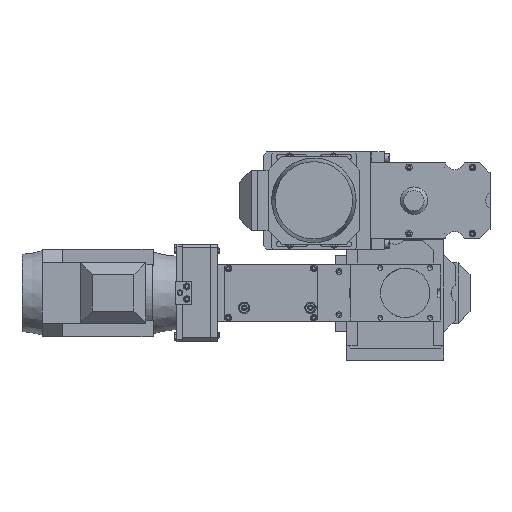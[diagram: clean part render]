
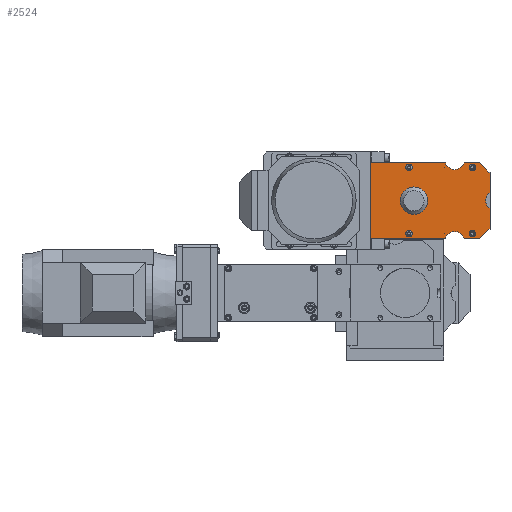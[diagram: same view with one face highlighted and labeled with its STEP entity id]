
A CAD part, top view. The second image highlights one B-rep face of the part: STEP entity #2524.
In plain terms, the highlighted planar face has unit normal (0, 0, 1).
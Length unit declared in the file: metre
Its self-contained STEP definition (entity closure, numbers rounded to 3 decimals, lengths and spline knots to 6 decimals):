
#2524 = ADVANCED_FACE( '', ( #3666, #3667, #3668, #3669, #3670 ), #3671, .T. );
#3666 = FACE_OUTER_BOUND( '', #5890, .T. );
#3667 = FACE_BOUND( '', #5891, .T. );
#3668 = FACE_BOUND( '', #5892, .T. );
#3669 = FACE_BOUND( '', #5893, .T. );
#3670 = FACE_BOUND( '', #5894, .T. );
#3671 = PLANE( '', #5895 );
#5890 = EDGE_LOOP( '', ( #8665, #8666, #8667, #8668, #8669, #8670, #8671, #8672, #8673, #8674, #8675, #8676 ) );
#5891 = EDGE_LOOP( '', ( #8677 ) );
#5892 = EDGE_LOOP( '', ( #8678 ) );
#5893 = EDGE_LOOP( '', ( #8679 ) );
#5894 = EDGE_LOOP( '', ( #8680 ) );
#5895 = AXIS2_PLACEMENT_3D( '', #8681, #8682, #8683 );
#8665 = ORIENTED_EDGE( '', *, *, #12293, .F. );
#8666 = ORIENTED_EDGE( '', *, *, #12312, .F. );
#8667 = ORIENTED_EDGE( '', *, *, #12313, .T. );
#8668 = ORIENTED_EDGE( '', *, *, #12301, .F. );
#8669 = ORIENTED_EDGE( '', *, *, #12311, .F. );
#8670 = ORIENTED_EDGE( '', *, *, #12314, .F. );
#8671 = ORIENTED_EDGE( '', *, *, #12315, .T. );
#8672 = ORIENTED_EDGE( '', *, *, #12316, .F. );
#8673 = ORIENTED_EDGE( '', *, *, #12317, .F. );
#8674 = ORIENTED_EDGE( '', *, *, #12318, .F. );
#8675 = ORIENTED_EDGE( '', *, *, #12319, .T. );
#8676 = ORIENTED_EDGE( '', *, *, #12320, .F. );
#8677 = ORIENTED_EDGE( '', *, *, #12321, .T. );
#8678 = ORIENTED_EDGE( '', *, *, #12322, .T. );
#8679 = ORIENTED_EDGE( '', *, *, #12323, .T. );
#8680 = ORIENTED_EDGE( '', *, *, #12324, .T. );
#8681 = CARTESIAN_POINT( '', ( 0., 0., 0.01 ) );
#8682 = DIRECTION( '', ( 0., 0., 1. ) );
#8683 = DIRECTION( '', ( 1., 0., 0. ) );
#12293 = EDGE_CURVE( '', #13971, #13972, #13973, .T. );
#12301 = EDGE_CURVE( '', #13986, #13988, #13989, .T. );
#12311 = EDGE_CURVE( '', #14003, #13986, #14005, .T. );
#12312 = EDGE_CURVE( '', #14006, #13971, #14007, .T. );
#12313 = EDGE_CURVE( '', #14006, #13988, #14008, .T. );
#12314 = EDGE_CURVE( '', #14009, #14003, #14010, .T. );
#12315 = EDGE_CURVE( '', #14009, #14011, #14012, .T. );
#12316 = EDGE_CURVE( '', #14013, #14011, #14014, .T. );
#12317 = EDGE_CURVE( '', #14015, #14013, #14016, .T. );
#12318 = EDGE_CURVE( '', #14017, #14015, #14018, .T. );
#12319 = EDGE_CURVE( '', #14017, #14019, #14020, .T. );
#12320 = EDGE_CURVE( '', #13972, #14019, #14021, .T. );
#12321 = EDGE_CURVE( '', #14022, #14022, #14023, .T. );
#12322 = EDGE_CURVE( '', #14024, #14024, #14025, .T. );
#12323 = EDGE_CURVE( '', #14026, #14026, #14027, .T. );
#12324 = EDGE_CURVE( '', #14028, #14028, #14029, .T. );
#13971 = VERTEX_POINT( '', #17227 );
#13972 = VERTEX_POINT( '', #17228 );
#13973 = LINE( '', #17229, #17230 );
#13986 = VERTEX_POINT( '', #17247 );
#13988 = VERTEX_POINT( '', #17250 );
#13989 = LINE( '', #17251, #17252 );
#14003 = VERTEX_POINT( '', #17274 );
#14005 = LINE( '', #17277, #17278 );
#14006 = VERTEX_POINT( '', #17279 );
#14007 = LINE( '', #17280, #17281 );
#14008 = CIRCLE( '', #17282, 0.014 );
#14009 = VERTEX_POINT( '', #17283 );
#14010 = LINE( '', #17284, #17285 );
#14011 = VERTEX_POINT( '', #17286 );
#14012 = CIRCLE( '', #17287, 0.014 );
#14013 = VERTEX_POINT( '', #17288 );
#14014 = LINE( '', #17289, #17290 );
#14015 = VERTEX_POINT( '', #17291 );
#14016 = LINE( '', #17292, #17293 );
#14017 = VERTEX_POINT( '', #17294 );
#14018 = LINE( '', #17295, #17296 );
#14019 = VERTEX_POINT( '', #17297 );
#14020 = CIRCLE( '', #17298, 0.014 );
#14021 = LINE( '', #17299, #17300 );
#14022 = VERTEX_POINT( '', #17301 );
#14023 = CIRCLE( '', #17302, 0.00275 );
#14024 = VERTEX_POINT( '', #17303 );
#14025 = CIRCLE( '', #17304, 0.00275 );
#14026 = VERTEX_POINT( '', #17305 );
#14027 = CIRCLE( '', #17306, 0.00275 );
#14028 = VERTEX_POINT( '', #17307 );
#14029 = CIRCLE( '', #17308, 0.00275 );
#17227 = CARTESIAN_POINT( '', ( 0.07, 0.054, 0.01 ) );
#17228 = CARTESIAN_POINT( '', ( 0.085, 0.039, 0.01 ) );
#17229 = CARTESIAN_POINT( '', ( 0.06975, 0.05425, 0.01 ) );
#17230 = VECTOR( '', #21490, 1. );
#17247 = CARTESIAN_POINT( '', ( -0.085, 0.054, 0.01 ) );
#17250 = CARTESIAN_POINT( '', ( 0.021584, 0.054, 0.01 ) );
#17251 = CARTESIAN_POINT( '', ( 0.085, 0.054, 0.01 ) );
#17252 = VECTOR( '', #21502, 1. );
#17274 = CARTESIAN_POINT( '', ( -0.085, -0.054, 0.01 ) );
#17277 = CARTESIAN_POINT( '', ( -0.085, 0.054, 0.01 ) );
#17278 = VECTOR( '', #21512, 1. );
#17279 = CARTESIAN_POINT( '', ( 0.048416, 0.054, 0.01 ) );
#17280 = CARTESIAN_POINT( '', ( 0.085, 0.054, 0.01 ) );
#17281 = VECTOR( '', #21513, 1. );
#17282 = AXIS2_PLACEMENT_3D( '', #21514, #21515, #21516 );
#17283 = CARTESIAN_POINT( '', ( 0.021584, -0.054, 0.01 ) );
#17284 = CARTESIAN_POINT( '', ( -0.085, -0.054, 0.01 ) );
#17285 = VECTOR( '', #21517, 1. );
#17286 = CARTESIAN_POINT( '', ( 0.048416, -0.054, 0.01 ) );
#17287 = AXIS2_PLACEMENT_3D( '', #21518, #21519, #21520 );
#17288 = CARTESIAN_POINT( '', ( 0.07, -0.054, 0.01 ) );
#17289 = CARTESIAN_POINT( '', ( -0.085, -0.054, 0.01 ) );
#17290 = VECTOR( '', #21521, 1. );
#17291 = CARTESIAN_POINT( '', ( 0.085, -0.039, 0.01 ) );
#17292 = CARTESIAN_POINT( '', ( 0.06975, -0.05425, 0.01 ) );
#17293 = VECTOR( '', #21522, 1. );
#17294 = CARTESIAN_POINT( '', ( 0.085, -0.011489, 0.01 ) );
#17295 = CARTESIAN_POINT( '', ( 0.085, -0.054, 0.01 ) );
#17296 = VECTOR( '', #21523, 1. );
#17297 = CARTESIAN_POINT( '', ( 0.085, 0.011489, 0.01 ) );
#17298 = AXIS2_PLACEMENT_3D( '', #21524, #21525, #21526 );
#17299 = CARTESIAN_POINT( '', ( 0.085, -0.054, 0.01 ) );
#17300 = VECTOR( '', #21527, 1. );
#17301 = CARTESIAN_POINT( '', ( 0.06275, -0.047, 0.01 ) );
#17302 = AXIS2_PLACEMENT_3D( '', #21528, #21529, #21530 );
#17303 = CARTESIAN_POINT( '', ( 0.06275, 0.047, 0.01 ) );
#17304 = AXIS2_PLACEMENT_3D( '', #21531, #21532, #21533 );
#17305 = CARTESIAN_POINT( '', ( -0.02725, -0.047, 0.01 ) );
#17306 = AXIS2_PLACEMENT_3D( '', #21534, #21535, #21536 );
#17307 = CARTESIAN_POINT( '', ( -0.02725, 0.047, 0.01 ) );
#17308 = AXIS2_PLACEMENT_3D( '', #21537, #21538, #21539 );
#21490 = DIRECTION( '', ( 0.707, -0.707, 0. ) );
#21502 = DIRECTION( '', ( 1., 0., 0. ) );
#21512 = DIRECTION( '', ( 0., 1., 0. ) );
#21513 = DIRECTION( '', ( 1., 0., 0. ) );
#21514 = CARTESIAN_POINT( '', ( 0.035, 0.058, 0.01 ) );
#21515 = DIRECTION( '', ( 0., 0., -1. ) );
#21516 = DIRECTION( '', ( 1., 0., 0. ) );
#21517 = DIRECTION( '', ( -1., 0., 0. ) );
#21518 = CARTESIAN_POINT( '', ( 0.035, -0.058, 0.01 ) );
#21519 = DIRECTION( '', ( 0., 0., -1. ) );
#21520 = DIRECTION( '', ( 1., 0., 0. ) );
#21521 = DIRECTION( '', ( -1., 0., 0. ) );
#21522 = DIRECTION( '', ( -0.707, -0.707, 0. ) );
#21523 = DIRECTION( '', ( 0., -1., 0. ) );
#21524 = CARTESIAN_POINT( '', ( 0.093, 0., 0.01 ) );
#21525 = DIRECTION( '', ( 0., 0., -1. ) );
#21526 = DIRECTION( '', ( 1., 0., 0. ) );
#21527 = DIRECTION( '', ( 0., -1., 0. ) );
#21528 = CARTESIAN_POINT( '', ( 0.06, -0.047, 0.01 ) );
#21529 = DIRECTION( '', ( 0., 0., -1. ) );
#21530 = DIRECTION( '', ( 1., 0., 0. ) );
#21531 = CARTESIAN_POINT( '', ( 0.06, 0.047, 0.01 ) );
#21532 = DIRECTION( '', ( 0., 0., -1. ) );
#21533 = DIRECTION( '', ( 1., 0., 0. ) );
#21534 = CARTESIAN_POINT( '', ( -0.03, -0.047, 0.01 ) );
#21535 = DIRECTION( '', ( 0., 0., -1. ) );
#21536 = DIRECTION( '', ( 1., 0., 0. ) );
#21537 = CARTESIAN_POINT( '', ( -0.03, 0.047, 0.01 ) );
#21538 = DIRECTION( '', ( 0., 0., -1. ) );
#21539 = DIRECTION( '', ( 1., 0., 0. ) );
